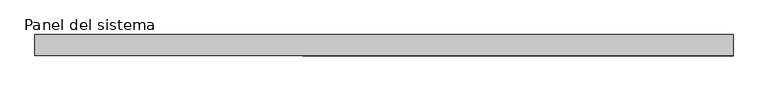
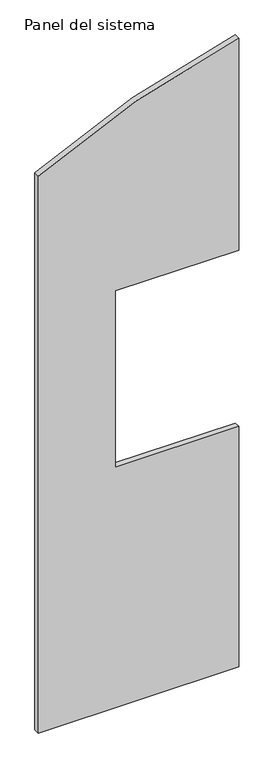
"""IFC4 building model written with IfcOpenShell, lengths in millimetres: plate geometry, Panel del sistema : HIANSA PANEL - PANELES DE CUBIERTA SIN TAPAJUNTA - EASY CUB 3GR - Esp. 30mm."""

import ifcopenshell
import ifcopenshell.guid

model = None  # the IFC model being written
_history = None  # IfcOwnerHistory: only IFC2X3 demands one
_inside = {}  # id of a spatial element -> (the spatial element, [elements in it])
_under = {}  # id of a project, library or spatial element -> (it, [spatial elements below it])
_declared = {}  # id of a project -> (the project, [libraries it declares])
_typed = {}  # id of a type object -> (the type object, [elements of that type])
_made_of = {}  # id of a material, layer set ... -> (it, [elements and type objects made of it])


def new_model(schema):
    """Start an empty IFC model of exactly this schema.

    Asked for "IFC4X3", IfcOpenShell would pick the latest addendum, in which some entities
    have other attributes; the version numbers below select the first issue.
    IFC2X3 requires an IfcOwnerHistory on every rooted entity: one is made here for all.
    """
    global model, _history
    if schema == "IFC4X3":
        model = ifcopenshell.file(schema_version=(4, 3, 0, 0))
    else:
        model = ifcopenshell.file(schema=schema)
    _inside.clear()
    _under.clear()
    _declared.clear()
    _typed.clear()
    _made_of.clear()
    _history = None
    if model.schema == "IFC2X3":
        org = make("IfcOrganization", Name="unknown")
        user = make(
            "IfcPersonAndOrganization",
            ThePerson=make("IfcPerson", FamilyName="unknown"),
            TheOrganization=org,
        )
        app = make(
            "IfcApplication",
            ApplicationDeveloper=org,
            Version="unknown",
            ApplicationFullName="unknown",
            ApplicationIdentifier="unknown",
        )
        _history = make(
            "IfcOwnerHistory",
            OwningUser=user,
            OwningApplication=app,
            ChangeAction="ADDED",
            CreationDate=0,
        )
    return model


def make(cls, **values):
    """One entity of the class cls with the attributes given. An attribute that is None is left unset."""
    return model.create_entity(
        cls, **{name: value for name, value in values.items() if value is not None}
    )


def rooted(cls, **values):
    """An entity with a GlobalId (a new one), such as an element, a storey or a relation."""
    return make(cls, GlobalId=ifcopenshell.guid.new(), OwnerHistory=_history, **values)


def si_unit(unit_type, name, prefix=None):
    """IfcSIUnit, for example si_unit("LENGTHUNIT", "METRE", prefix="MILLI")."""
    return make("IfcSIUnit", UnitType=unit_type, Prefix=prefix, Name=name)


def assignment(units):
    """IfcUnitAssignment: the units of a project."""
    return None if units is None else make("IfcUnitAssignment", Units=units)


def point(xyz):
    """IfcCartesianPoint."""
    return None if xyz is None else make("IfcCartesianPoint", Coordinates=xyz)


def direction(xyz):
    """IfcDirection."""
    return None if xyz is None else make("IfcDirection", DirectionRatios=xyz)


def frame(location, z_axis=None, x_axis=None):
    """IfcAxis2Placement3D, a coordinate frame: its origin and axes. An axis left out is left unset."""
    return make(
        "IfcAxis2Placement3D",
        Location=point(location),
        Axis=direction(z_axis),
        RefDirection=direction(x_axis),
    )


def frame_2d(location, x_axis=None):
    """IfcAxis2Placement2D, a coordinate frame in the plane: its origin and x axis."""
    return make(
        "IfcAxis2Placement2D", Location=point(location), RefDirection=direction(x_axis)
    )


def origin():
    """The frame at (0, 0, 0) with its axes left unset."""
    return frame((0.0, 0.0, 0.0))


def place(relative_to, where):
    """IfcLocalPlacement: puts the frame where relative to a parent placement (None: the world)."""
    return make(
        "IfcLocalPlacement", PlacementRelTo=relative_to, RelativePlacement=where
    )


def context(
    kind, dimensions, precision=None, world=None, true_north=None, identifier=None
):
    """IfcGeometricRepresentationContext, for example the 3D "Model" context."""
    return make(
        "IfcGeometricRepresentationContext",
        ContextIdentifier=identifier,
        ContextType=kind,
        CoordinateSpaceDimension=dimensions,
        Precision=precision,
        WorldCoordinateSystem=world,
        TrueNorth=true_north,
    )


def project(units=None, contexts=None):
    """IfcProject with its units and contexts."""
    return rooted(
        "IfcProject",
        Name="project",
        RepresentationContexts=contexts,
        UnitsInContext=assignment(units),
    )


def spatial(cls, under=None, at=None, **own):
    """A site, building, storey or space (cls), placed at a placement, below another one or the project."""
    s = rooted(cls, ObjectPlacement=at, **own)
    if under is not None:
        _under.setdefault(under.id(), (under, []))[1].append(s)
    return s


def polyline(points):
    """IfcPolyline through the points."""
    return make("IfcPolyline", Points=[point(p) for p in points])


def circle_curve(where, radius):
    """IfcCircle in the frame where."""
    return make("IfcCircle", Position=where, Radius=radius)


def trimmed(basis, trim1, trim2, sense, master):
    """IfcTrimmedCurve: the piece of a basis curve between two trims."""
    return make(
        "IfcTrimmedCurve",
        BasisCurve=basis,
        Trim1=trim1,
        Trim2=trim2,
        SenseAgreement=sense,
        MasterRepresentation=master,
    )


def segment(curve, same_sense, transition):
    """IfcCompositeCurveSegment."""
    return make(
        "IfcCompositeCurveSegment",
        Transition=transition,
        SameSense=same_sense,
        ParentCurve=curve,
    )


def composite_curve(segments, self_intersect=None):
    """IfcCompositeCurve: segments joined end to end."""
    return make("IfcCompositeCurve", Segments=segments, SelfIntersect=self_intersect)


def outline(outer, holes=None, kind="AREA"):
    """IfcArbitraryClosedProfileDef: a profile drawn as a closed curve; with holes, ...WithVoids."""
    if holes is None:
        return make("IfcArbitraryClosedProfileDef", ProfileType=kind, OuterCurve=outer)
    return make(
        "IfcArbitraryProfileDefWithVoids",
        ProfileType=kind,
        OuterCurve=outer,
        InnerCurves=holes,
    )


def extrude(swept, where, along, depth):
    """IfcExtrudedAreaSolid: the profile swept, set in the frame where, extruded along a direction by depth."""
    return make(
        "IfcExtrudedAreaSolid",
        SweptArea=swept,
        Position=where,
        ExtrudedDirection=direction(along),
        Depth=depth,
    )


def shape(context_of_items, identifier, shape_type, items):
    """IfcShapeRepresentation: the items that make up one representation, for example the "Body"."""
    return make(
        "IfcShapeRepresentation",
        ContextOfItems=context_of_items,
        RepresentationIdentifier=identifier,
        RepresentationType=shape_type,
        Items=items,
    )


def source(mapping_origin, context_of_items, identifier, shape_type, items):
    """IfcRepresentationMap: a shape defined once, which mapped items show again and again."""
    return make(
        "IfcRepresentationMap",
        MappingOrigin=mapping_origin,
        MappedRepresentation=shape(context_of_items, identifier, shape_type, items),
    )


def transform(
    local_origin,
    x_axis=None,
    y_axis=None,
    z_axis=None,
    scale=None,
    scale2=None,
    scale3=None,
    uniform=True,
):
    """IfcCartesianTransformationOperator3D, or its non-uniform kind. x_axis, y_axis, z_axis: its Axis1, 2, 3."""
    if uniform:
        return make(
            "IfcCartesianTransformationOperator3D",
            Axis1=direction(x_axis),
            Axis2=direction(y_axis),
            LocalOrigin=point(local_origin),
            Scale=scale,
            Axis3=direction(z_axis),
        )
    return make(
        "IfcCartesianTransformationOperator3DnonUniform",
        Axis1=direction(x_axis),
        Axis2=direction(y_axis),
        LocalOrigin=point(local_origin),
        Scale=scale,
        Axis3=direction(z_axis),
        Scale2=scale2,
        Scale3=scale3,
    )


def mapped(mapping_source, mapping_target):
    """IfcMappedItem: shows the shape of a source again, moved by a transform."""
    return make(
        "IfcMappedItem", MappingSource=mapping_source, MappingTarget=mapping_target
    )


def made_of(thing, what):
    """Note that an element or type object is made of a material, layer set ...; save() writes the relation."""
    if what is not None:
        _made_of.setdefault(what.id(), (what, []))[1].append(thing)
    return thing


def element(
    cls,
    number,
    at=None,
    inside=None,
    cuts=None,
    type_object=None,
    material=None,
    context=None,
    identifier="Body",
    shape_type=None,
    held_by="IfcProductDefinitionShape",
    body=None,
    shapes=None,
    **own,
):
    """One element of the class cls, such as IfcWall. Its Tag is "e" and its number.

    at: its placement. inside: the storey or other place that contains it. cuts: it is an
    opening in that element (IfcRelVoidsElement). A single representation is given by context,
    identifier, shape_type and body (its items); several are given by shapes. held_by: the class
    of the entity that holds the representations. save() writes the other relations.
    """
    e = rooted(cls, Tag="e%d" % number, ObjectPlacement=at, **own)
    if body is not None:
        shapes = [shape(context, identifier, shape_type, body)]
    if shapes is not None:
        e.Representation = make(held_by, Representations=shapes)
    if inside is not None:
        _inside.setdefault(inside.id(), (inside, []))[1].append(e)
    if cuts is not None:
        rooted(
            "IfcRelVoidsElement", RelatingBuildingElement=cuts, RelatedOpeningElement=e
        )
    if type_object is not None:
        _typed.setdefault(type_object.id(), (type_object, []))[1].append(e)
    return made_of(e, material)


def aggregate(whole, parts):
    """IfcRelAggregates: a whole, such as a stair, and the parts it consists of."""
    return rooted("IfcRelAggregates", RelatingObject=whole, RelatedObjects=parts)


def save(model, path):
    """Write the relations noted so far, then the file.

    IfcRelAggregates (storeys below a building ...), IfcRelContainedInSpatialStructure (elements
    in a storey), IfcRelDefinesByType, IfcRelAssociatesMaterial and IfcRelDeclares: one each for
    every whole, place, type object, material and project.
    """
    for whole, parts in _under.values():
        aggregate(whole, parts)
    for where, things in _inside.values():
        rooted(
            "IfcRelContainedInSpatialStructure",
            RelatedElements=things,
            RelatingStructure=where,
        )
    for kind, things in _typed.values():
        rooted("IfcRelDefinesByType", RelatedObjects=things, RelatingType=kind)
    for what, things in _made_of.values():
        rooted("IfcRelAssociatesMaterial", RelatedObjects=things, RelatingMaterial=what)
    for by, libraries in _declared.values():
        rooted("IfcRelDeclares", RelatingContext=by, RelatedDefinitions=libraries)
    model.write(path)


def panel_del_sistema_14d703db(model_context):
    return source(origin(), model_context, "Body", "SweptSolid", [
        extrude(outline(composite_curve([segment(polyline([(0.0, -500.0000002), (0.0, 500.0000002), (1266.2659741, 500.0000002), (1266.2659741, -116.4834635), (2196.4441899, -116.4834635), (2196.4441899, 500.0000002), (3312.1651335, 500.0000002)]), True, "CONTINUOUS"), segment(trimmed(circle_curve(frame_2d((-202.632582, 1249.9999998)), 3593.9258451), [point((3312.1651335, 500.0000002))], [point((2936.4441899, -500.0000002))], False, "CARTESIAN"), True, "CONTINUOUS"), segment(polyline([(2936.4441899, -500.0000002), (0.0, -500.0000002)]), True, "CONTINUOUS")], self_intersect=False)), frame((0.0, 0.0, 0.0), z_axis=(0.0, 1.0, 0.0), x_axis=(0.0, 0.0, 1.0)), (0.0, 0.0, 1.0), 30.0),
    ])


if __name__ == "__main__":
    model = new_model("IFC4")
    model_context = context("Model", 3, world=origin())
    ifc_project = project(units=[si_unit("LENGTHUNIT", "METRE", prefix="MILLI")], contexts=[model_context])
    site = spatial("IfcSite", under=ifc_project)
    building = spatial("IfcBuilding", under=site)
    placement = place(None, origin())
    panel_del_sistema_shape = panel_del_sistema_14d703db(model_context)
    element("IfcPlate", 1, ObjectType="Panel del sistema : HIANSA PANEL - PANELES DE CUBIERTA SIN TAPAJUNTA - EASY CUB 3GR - Esp. 30mm", at=placement, inside=building, context=model_context, shape_type="MappedRepresentation", body=[
        mapped(panel_del_sistema_shape, transform((0.0, 0.0, 0.0), x_axis=(1.0, 0.0, 0.0), y_axis=(0.0, 1.0, 0.0), z_axis=(0.0, 0.0, 1.0))),
    ])
    save(model, "model.ifc")
